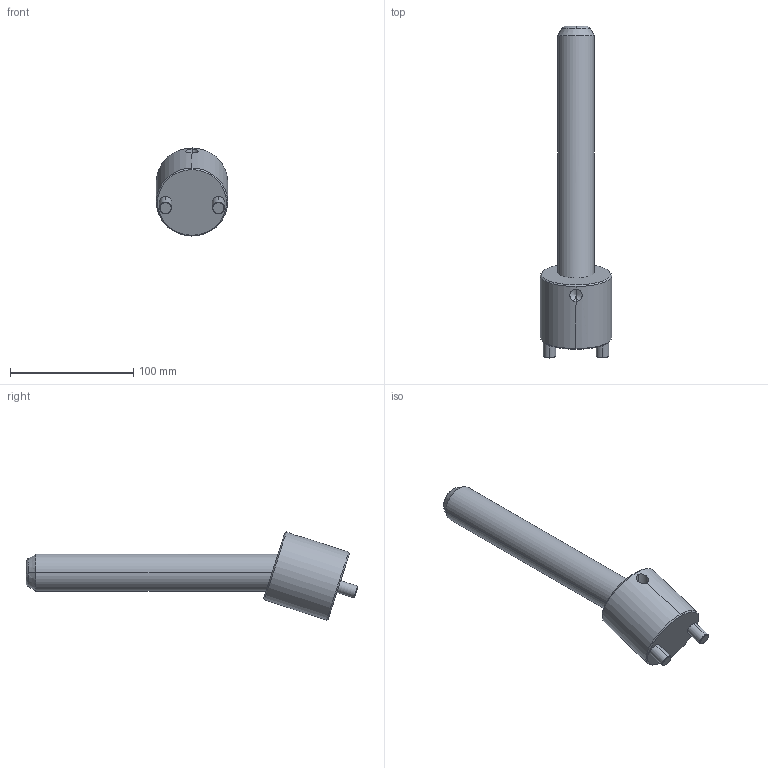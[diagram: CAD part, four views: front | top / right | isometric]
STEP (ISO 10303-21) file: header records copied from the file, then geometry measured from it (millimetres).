
FILE_DESCRIPTION (( 'STEP AP203' ), '1' );
FILE_NAME ('CI1830200.STEP', '2023-12-07T23:07:14', ( '' ), ( '' ), 'SwSTEP 2.0', 'SolidWorks 2017', '' );
FILE_SCHEMA (( 'CONFIG_CONTROL_DESIGN' ));
Length unit declared in the file: millimetre
Products named in the file (3): CI1830200; CS1830; CP30200
Assembly tree (2 placements, depth 2):
  CI1830200
    CP30200
    CS1830
Bounding box: 58 x 269.82 x 71.54 mm (x, y, z)
Volume: 285099.7 mm3; surface area: 44899.8 mm2
Topology: 2 solids, 2 shells, 37 faces, 80 edges, 47 vertices
Faces by surface type: cylinder 14, cone 14, plane 7, bspline 2
Entity records: 1521 total; most frequent: CARTESIAN_POINT 429, DIRECTION 182, ORIENTED_EDGE 156, EDGE_CURVE 78, AXIS2_PLACEMENT_3D 76, VERTEX_POINT 47, EDGE_LOOP 41, FACE_OUTER_BOUND 37
